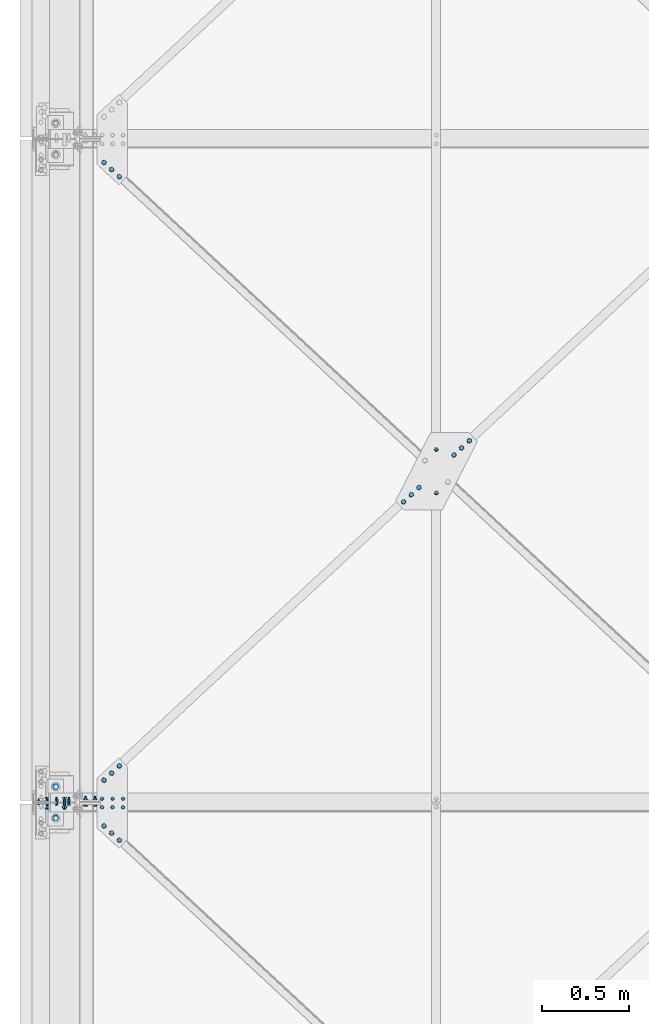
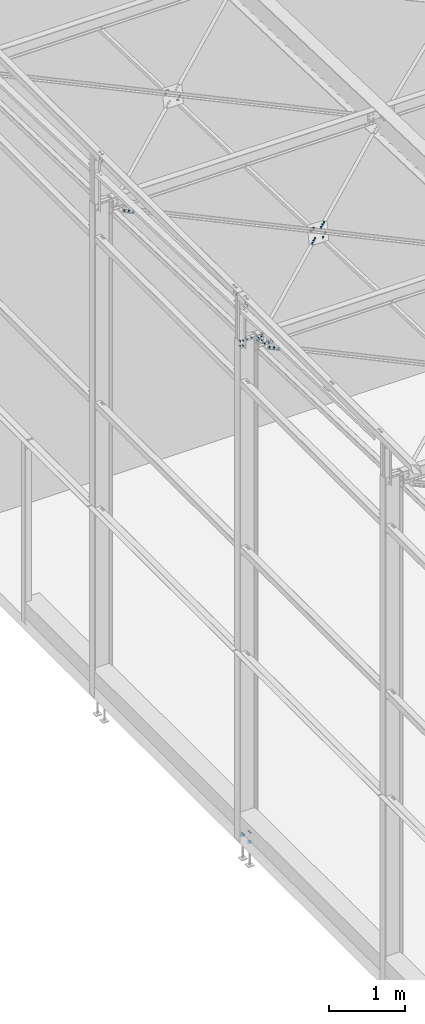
# One storey, part 149 of 362: 15 mechanical fasteners.
"""IFC2X3 building model written with IfcOpenShell, lengths in millimetres."""

from ifc_helpers import new_model, si_unit, frame, frame_2d, origin_with_axes, origin_2d_with_axis, place, context, subcontext, project, spatial, polyline, circle_curve, parameter, trimmed, segment, composite_curve, circle, outline, extrude, source, transform, mapped, material, type_object, element, save


model = new_model("IFC2X3")

# Units and contexts
model_context = context("Model", 3, precision=1e-05, world=origin_with_axes())
body_context = subcontext(model_context, "Body", "Model", "MODEL_VIEW")
ifc_project = project(units=[si_unit("LENGTHUNIT", "METRE", prefix="MILLI"), si_unit("AREAUNIT", "SQUARE_METRE"), si_unit("VOLUMEUNIT", "CUBIC_METRE"), si_unit("MASSUNIT", "GRAM", prefix="KILO"), si_unit("TIMEUNIT", "SECOND"), si_unit("PLANEANGLEUNIT", "RADIAN"), si_unit("SOLIDANGLEUNIT", "STERADIAN"), si_unit("THERMODYNAMICTEMPERATUREUNIT", "DEGREE_CELSIUS"), si_unit("LUMINOUSINTENSITYUNIT", "LUMEN")], contexts=[model_context])

# Site, building, storey
site_placement = place(None, origin_with_axes())
site = spatial("IfcSite", under=ifc_project, at=site_placement, Name="Undefined", CompositionType="ELEMENT")
building_placement = place(site_placement, origin_with_axes())
building = spatial("IfcBuilding", under=site, at=building_placement, Name="Undefined", CompositionType="ELEMENT")
storey_placement = place(building_placement, origin_with_axes())
storey = spatial("IfcBuildingStorey", under=building, at=storey_placement, Name="Undefined", CompositionType="ELEMENT", Elevation=0.0)

# Mechanical fasteners
ifc_material_1 = material(Name="8.8-SB-ZINGUE")
mechanical_fastener_type = type_object("IfcMechanicalFastenerType", Name="Bolt assembly")
shared_shape_1 = source(origin_with_axes(), body_context, "Body", "SweptSolid", [
    extrude(circle(Radius=7.0, at=origin_2d_with_axis()), frame((0.0, -8.39654616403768, 0.0), z_axis=(0.0, 1.0, 0.0), x_axis=(1.0, 0.0, 0.0)), (0.0, 0.0, 1.0), 8.5),
    extrude(circle(Radius=7.0, at=origin_2d_with_axis()), frame((0.0, -0.100011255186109, 0.0), z_axis=(0.0, 1.0, 0.0), x_axis=(1.0, 0.0, 0.0)), (0.0, 0.0, 1.0), 6.1),
    extrude(outline(polyline([(10.39230484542, 0.0), (5.19615242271, 9.00000000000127), (-5.19615242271, 9.00000000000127), (-10.39230484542, 0.0), (-5.19615242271, -9.00000000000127), (5.19615242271, -9.00000000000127), (10.39230484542, 0.0)])), frame((0.0, -16.4165461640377, 0.0), z_axis=(0.0, 1.0, 0.0), x_axis=(1.0, 0.0, 0.0)), (0.0, 0.0, 1.0), 7.92),
    extrude(circle(Radius=6.0, at=origin_2d_with_axis()), frame((0.0, -8.49654616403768, 0.0), z_axis=(0.0, 1.0, 0.0), x_axis=(1.0, 0.0, 0.0)), (0.0, 0.0, 1.0), 30.0),
    extrude(outline(polyline([(11.5008173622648, 0.0), (5.7504086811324, 9.96000000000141), (-5.7504086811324, 9.96000000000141), (-11.5008173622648, 0.0), (-5.7504086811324, -9.96000000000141), (5.7504086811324, -9.96000000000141), (11.5008173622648, 0.0)])), frame((0.0, 6.0, 0.0), z_axis=(0.0, 1.0, 0.0), x_axis=(1.0, 0.0, 0.0)), (0.0, 0.0, 1.0), 7.92),
])
mechanical_fastener_1_placement = place(storey_placement, frame((220.000001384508, 7596.86006538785, 7611.16372859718), z_axis=(-1.37967020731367e-06, 0.99950654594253, -0.0314112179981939), x_axis=(0.999999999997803, 2.09200000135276e-06, 1.31999999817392e-07)))
element("IfcMechanicalFastener", 1, at=mechanical_fastener_1_placement, inside=storey, type_object=mechanical_fastener_type, material=ifc_material_1, Name="Bolt assembly", NominalDiameter=12.0, NominalLength=30.0, context=body_context, shape_type="MappedRepresentation", body=[
    mapped(shared_shape_1, transform((0.0, 0.0, 25.0))),
    mapped(shared_shape_1, transform((60.00000000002, -1.00044417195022e-11, 24.9999999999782))),
    mapped(shared_shape_1, transform((120.00000000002, -1.90993887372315e-11, 24.9999999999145))),
    mapped(shared_shape_1, transform((0.0, 0.0, -25.0))),
    mapped(shared_shape_1, transform((59.9999999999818, -8.18545231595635e-12, -25.0000000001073))),
    mapped(shared_shape_1, transform((119.999999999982, -1.72803993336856e-11, -25.0000000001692))),
])
shared_shape_2 = source(origin_with_axes(), body_context, "Body", "SweptSolid", [
    extrude(circle(Radius=7.0, at=origin_2d_with_axis()), frame((0.0, -0.0999426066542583, 0.0), z_axis=(0.0, 1.0, 0.0), x_axis=(1.0, 0.0, 0.0)), (0.0, 0.0, 1.0), 5.1),
    extrude(circle(Radius=7.0, at=origin_2d_with_axis()), frame((0.0, 0.100057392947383, 0.0), z_axis=(0.0, 1.0, 0.0), x_axis=(1.0, 0.0, 0.0)), (0.0, 0.0, 1.0), 6.0),
    extrude(outline(polyline([(10.39230484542, 0.0), (5.19615242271, 9.00000000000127), (-5.19615242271, 9.00000000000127), (-10.39230484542, 0.0), (-5.19615242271, -9.00000000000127), (5.19615242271, -9.00000000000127), (10.39230484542, 0.0)])), frame((0.0, -7.91994260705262, 0.0), z_axis=(0.0, 1.0, 0.0), x_axis=(1.0, 0.0, 0.0)), (0.0, 0.0, 1.0), 7.92),
    extrude(circle(Radius=6.0, at=origin_2d_with_axis()), frame((0.0, 6.26397177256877e-05, 0.0), z_axis=(0.0, 1.0, 0.0), x_axis=(1.0, 0.0, 0.0)), (0.0, 0.0, 1.0), 30.0),
    extrude(outline(polyline([(11.5008173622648, 0.0), (5.7504086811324, 9.96000000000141), (-5.7504086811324, 9.96000000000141), (-11.5008173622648, 0.0), (-5.7504086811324, -9.96000000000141), (5.7504086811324, -9.96000000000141), (11.5008173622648, 0.0)])), frame((0.0, 6.00005739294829, 0.0), z_axis=(0.0, 1.0, 0.0), x_axis=(1.0, 0.0, 0.0)), (0.0, 0.0, 1.0), 7.92),
])
mechanical_fastener_2_placement = place(storey_placement, frame((2135.00007400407, 9496.85918641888, 7551.45297747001), z_axis=(0.0, -0.999506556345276, 0.031410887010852), x_axis=(-1.0, 0.0, 0.0)))
element("IfcMechanicalFastener", 2, at=mechanical_fastener_2_placement, inside=storey, type_object=mechanical_fastener_type, material=ifc_material_1, Name="Bolt assembly", NominalDiameter=12.0, NominalLength=30.0, context=body_context, shape_type="MappedRepresentation", body=[
    mapped(shared_shape_2, transform((0.0, -1.17324816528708e-10, -124.999999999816))),
    mapped(shared_shape_2, transform((0.0, 1.17324816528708e-10, 124.999999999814))),
])
shared_shape_3 = source(origin_with_axes(), body_context, "Body", "SweptSolid", [
    extrude(circle(Radius=9.0, at=origin_2d_with_axis()), frame((0.0, 5.90435274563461, 0.0), z_axis=(0.0, 1.0, 0.0), x_axis=(1.0, 0.0, 0.0)), (0.0, 0.0, 1.0), 5.1),
    extrude(circle(Radius=9.0, at=origin_2d_with_axis()), frame((0.0, 0.1, 0.0), z_axis=(0.0, 1.0, 0.0), x_axis=(1.0, 0.0, 0.0)), (0.0, 0.0, 1.0), 6.0),
    extrude(outline(polyline([(13.85640646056, 0.0), (6.92820323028, 12.0000000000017), (-6.92820323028, 12.0000000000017), (-13.85640646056, 0.0), (-6.92820323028, -12.0000000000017), (6.92820323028, -12.0000000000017), (13.85640646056, 0.0)])), frame((0.0, -10.5600019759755, 0.0), z_axis=(0.0, 1.0, 0.0), x_axis=(1.0, 0.0, 0.0)), (0.0, 0.0, 1.0), 10.56),
    extrude(circle(Radius=8.0, at=origin_2d_with_axis()), frame((0.0, 0.0, 0.0), z_axis=(0.0, 1.0, 0.0), x_axis=(1.0, 0.0, 0.0)), (0.0, 0.0, 1.0), 30.0),
    extrude(outline(polyline([(15.3344231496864, 0.0), (7.6672115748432, 13.2800000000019), (-7.6672115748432, 13.2800000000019), (-15.3344231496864, 0.0), (-7.6672115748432, -13.2800000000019), (7.6672115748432, -13.2800000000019), (15.3344231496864, 0.0)])), frame((0.0, 11.0043527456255, 0.0), z_axis=(0.0, 1.0, 0.0), x_axis=(1.0, 0.0, 0.0)), (0.0, 0.0, 1.0), 10.56),
])
mechanical_fastener_3_placement = place(storey_placement, frame((2235.26634015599, 9590.0161718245, 7548.52535846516), z_axis=(-0.680837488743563, 0.73207308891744, -0.0230066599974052), x_axis=(0.732434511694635, 0.680501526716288, -0.0213859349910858)))
element("IfcMechanicalFastener", 3, at=mechanical_fastener_3_placement, inside=storey, type_object=mechanical_fastener_type, material=ifc_material_1, Name="Bolt assembly", NominalDiameter=16.0, NominalLength=30.0, context=body_context, shape_type="MappedRepresentation", body=[
    mapped(shared_shape_3, transform((0.0, 0.0, 0.0))),
    mapped(shared_shape_3, transform((60.0, 0.0, 0.0))),
    mapped(shared_shape_3, transform((120.0, 0.0, 0.0))),
])
shared_shape_4 = source(origin_with_axes(), body_context, "Body", "SweptSolid", [
    extrude(circle(Radius=9.0, at=origin_2d_with_axis()), frame((0.0, 5.90424749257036, 0.0), z_axis=(0.0, 1.0, 0.0), x_axis=(1.0, 0.0, 0.0)), (0.0, 0.0, 1.0), 5.1),
    extrude(circle(Radius=9.0, at=origin_2d_with_axis()), frame((0.0, 0.1, 0.0), z_axis=(0.0, 1.0, 0.0), x_axis=(1.0, 0.0, 0.0)), (0.0, 0.0, 1.0), 6.0),
    extrude(outline(polyline([(13.85640646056, 0.0), (6.92820323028, 12.0000000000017), (-6.92820323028, 12.0000000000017), (-13.85640646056, 0.0), (-6.92820323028, -12.0000000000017), (6.92820323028, -12.0000000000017), (13.85640646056, 0.0)])), frame((0.0, -10.5600019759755, 0.0), z_axis=(0.0, 1.0, 0.0), x_axis=(1.0, 0.0, 0.0)), (0.0, 0.0, 1.0), 10.56),
    extrude(circle(Radius=8.0, at=origin_2d_with_axis()), frame((0.0, 0.0, 0.0), z_axis=(0.0, 1.0, 0.0), x_axis=(1.0, 0.0, 0.0)), (0.0, 0.0, 1.0), 30.0),
    extrude(outline(polyline([(15.3344231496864, 0.0), (7.6672115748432, 13.2800000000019), (-7.6672115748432, 13.2800000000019), (-15.3344231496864, 0.0), (-7.6672115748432, -13.2800000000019), (7.6672115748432, -13.2800000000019), (15.3344231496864, 0.0)])), frame((0.0, 11.0042474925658, 0.0), z_axis=(0.0, 1.0, 0.0), x_axis=(1.0, 0.0, 0.0)), (0.0, 0.0, 1.0), 10.56),
])
mechanical_fastener_4_placement = place(storey_placement, frame((2034.73366298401, 9403.70217836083, 7554.38059722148), z_axis=(0.680837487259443, -0.732073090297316, 0.0230066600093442), x_axis=(-0.732434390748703, -0.68050165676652, 0.0213859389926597)))
element("IfcMechanicalFastener", 4, at=mechanical_fastener_4_placement, inside=storey, type_object=mechanical_fastener_type, material=ifc_material_1, Name="Bolt assembly", NominalDiameter=16.0, NominalLength=30.0, context=body_context, shape_type="MappedRepresentation", body=[
    mapped(shared_shape_4, transform((0.0, 0.0, 0.0))),
    mapped(shared_shape_4, transform((60.0, 0.0, 0.0))),
    mapped(shared_shape_4, transform((120.0, 0.0, 0.0))),
])
shared_shape_5 = source(origin_with_axes(), body_context, "Body", "SweptSolid", [
    extrude(circle(Radius=9.0, at=origin_2d_with_axis()), frame((0.0, -7.9, 0.0), z_axis=(0.0, 1.0, 0.0), x_axis=(1.0, 0.0, 0.0)), (0.0, 0.0, 1.0), 5.0),
    extrude(circle(Radius=9.0, at=origin_2d_with_axis()), frame((0.0, -3.10345380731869, 0.0), z_axis=(0.0, 1.0, 0.0), x_axis=(1.0, 0.0, 0.0)), (0.0, 0.0, 1.0), 6.1),
    extrude(outline(polyline([(13.85640646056, 0.0), (6.92820323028, 12.0000000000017), (-6.92820323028, 12.0000000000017), (-13.85640646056, 0.0), (-6.92820323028, -12.0000000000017), (6.92820323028, -12.0000000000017), (13.85640646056, 0.0)])), frame((0.0, -18.5600278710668, 0.0), z_axis=(0.0, 1.0, 0.0), x_axis=(1.0, 0.0, 0.0)), (0.0, 0.0, 1.0), 10.56),
    extrude(circle(Radius=8.0, at=origin_2d_with_axis()), frame((0.0, -8.0, 0.0), z_axis=(0.0, 1.0, 0.0), x_axis=(1.0, 0.0, 0.0)), (0.0, 0.0, 1.0), 30.0),
    extrude(outline(polyline([(15.3344231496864, 0.0), (7.6672115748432, 13.2800000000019), (-7.6672115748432, 13.2800000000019), (-15.3344231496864, 0.0), (-7.6672115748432, -13.2800000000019), (7.6672115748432, -13.2800000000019), (15.3344231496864, 0.0)])), frame((0.0, 2.99654619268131, 0.0), z_axis=(0.0, 1.0, 0.0), x_axis=(1.0, 0.0, 0.0)), (0.0, 0.0, 1.0), 10.56),
])
mechanical_fastener_5_placement = place(storey_placement, frame((230.961832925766, 11265.79672214, 7492.85612623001), z_axis=(0.680838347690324, 0.732072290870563, -0.0230066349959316), x_axis=(0.73243371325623, -0.680502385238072, 0.0213859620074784)))
element("IfcMechanicalFastener", 5, at=mechanical_fastener_5_placement, inside=storey, type_object=mechanical_fastener_type, material=ifc_material_1, Name="Bolt assembly", NominalDiameter=16.0, NominalLength=30.0, context=body_context, shape_type="MappedRepresentation", body=[
    mapped(shared_shape_5, transform((0.0, 0.0, 0.0))),
    mapped(shared_shape_5, transform((60.0, 0.0, 0.0))),
    mapped(shared_shape_5, transform((120.0, 0.0, 0.0))),
])
shared_shape_6 = source(origin_with_axes(), body_context, "Body", "SweptSolid", [
    extrude(circle(Radius=9.0, at=origin_2d_with_axis()), frame((0.0, 2.89983954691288, 0.0), z_axis=(0.0, 1.0, 0.0), x_axis=(1.0, 0.0, 0.0)), (0.0, 0.0, 1.0), 5.1),
    extrude(circle(Radius=9.0, at=origin_2d_with_axis()), frame((0.0, -2.90345384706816, 0.0), z_axis=(0.0, 1.0, 0.0), x_axis=(1.0, 0.0, 0.0)), (0.0, 0.0, 1.0), 6.0),
    extrude(outline(polyline([(13.85640646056, 0.0), (6.92820323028, 12.0000000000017), (-6.92820323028, 12.0000000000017), (-13.85640646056, 0.0), (-6.92820323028, -12.0000000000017), (6.92820323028, -12.0000000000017), (13.85640646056, 0.0)])), frame((0.0, -13.5634538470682, 0.0), z_axis=(0.0, 1.0, 0.0), x_axis=(1.0, 0.0, 0.0)), (0.0, 0.0, 1.0), 10.56),
    extrude(circle(Radius=8.0, at=origin_2d_with_axis()), frame((0.0, -3.00345384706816, 0.0), z_axis=(0.0, 1.0, 0.0), x_axis=(1.0, 0.0, 0.0)), (0.0, 0.0, 1.0), 30.0),
    extrude(outline(polyline([(15.3344231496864, 0.0), (7.6672115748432, 13.2800000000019), (-7.6672115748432, 13.2800000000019), (-15.3344231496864, 0.0), (-7.6672115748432, -13.2800000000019), (7.6672115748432, -13.2800000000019), (15.3344231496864, 0.0)])), frame((0.0, 7.99983954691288, 0.0), z_axis=(0.0, 1.0, 0.0), x_axis=(1.0, 0.0, 0.0)), (0.0, 0.0, 1.0), 10.56),
])
mechanical_fastener_6_placement = place(storey_placement, frame((230.964439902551, 7727.73743885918, 7604.04574473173), z_axis=(-0.680837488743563, 0.73207308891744, -0.0230066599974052), x_axis=(0.732434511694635, 0.680501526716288, -0.0213859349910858)))
element("IfcMechanicalFastener", 6, at=mechanical_fastener_6_placement, inside=storey, type_object=mechanical_fastener_type, material=ifc_material_1, Name="Bolt assembly", NominalDiameter=16.0, NominalLength=30.0, context=body_context, shape_type="MappedRepresentation", body=[
    mapped(shared_shape_6, transform((0.0, 0.0, 0.0))),
    mapped(shared_shape_6, transform((60.0, 0.0, 0.0))),
    mapped(shared_shape_6, transform((120.0, 0.0, 0.0))),
])
shared_shape_7 = source(origin_with_axes(), body_context, "Body", "SweptSolid", [
    extrude(circle(Radius=9.0, at=origin_2d_with_axis()), frame((0.0, -7.9018518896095, 0.0), z_axis=(0.0, 1.0, 0.0), x_axis=(1.0, 0.0, 0.0)), (0.0, 0.0, 1.0), 5.0),
    extrude(circle(Radius=9.0, at=origin_2d_with_axis()), frame((0.0, -3.10345380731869, 0.0), z_axis=(0.0, 1.0, 0.0), x_axis=(1.0, 0.0, 0.0)), (0.0, 0.0, 1.0), 6.1),
    extrude(outline(polyline([(13.85640646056, 0.0), (6.92820323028, 12.0000000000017), (-6.92820323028, 12.0000000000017), (-13.85640646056, 0.0), (-6.92820323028, -12.0000000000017), (6.92820323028, -12.0000000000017), (13.85640646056, 0.0)])), frame((0.0, -18.5618518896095, 0.0), z_axis=(0.0, 1.0, 0.0), x_axis=(1.0, 0.0, 0.0)), (0.0, 0.0, 1.0), 10.56),
    extrude(circle(Radius=8.0, at=origin_2d_with_axis()), frame((0.0, -8.0018518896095, 0.0), z_axis=(0.0, 1.0, 0.0), x_axis=(1.0, 0.0, 0.0)), (0.0, 0.0, 1.0), 30.0),
    extrude(outline(polyline([(15.3344231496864, 0.0), (7.6672115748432, 13.2800000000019), (-7.6672115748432, 13.2800000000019), (-15.3344231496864, 0.0), (-7.6672115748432, -13.2800000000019), (7.6672115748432, -13.2800000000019), (15.3344231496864, 0.0)])), frame((0.0, 2.99654619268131, 0.0), z_axis=(0.0, 1.0, 0.0), x_axis=(1.0, 0.0, 0.0)), (0.0, 0.0, 1.0), 10.56),
])
mechanical_fastener_7_placement = place(storey_placement, frame((230.964265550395, 7465.79882389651, 7612.27761772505), z_axis=(0.680838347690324, 0.732072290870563, -0.0230066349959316), x_axis=(0.73243371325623, -0.680502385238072, 0.0213859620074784)))
element("IfcMechanicalFastener", 7, at=mechanical_fastener_7_placement, inside=storey, type_object=mechanical_fastener_type, material=ifc_material_1, Name="Bolt assembly", NominalDiameter=16.0, NominalLength=30.0, context=body_context, shape_type="MappedRepresentation", body=[
    mapped(shared_shape_7, transform((0.0, 0.0, 0.0))),
    mapped(shared_shape_7, transform((60.0, 0.0, 0.0))),
    mapped(shared_shape_7, transform((120.0, 0.0, 0.0))),
])
shared_shape_8 = source(origin_with_axes(), body_context, "Body", "SweptSolid", [
    extrude(circle(Radius=7.0, at=origin_2d_with_axis()), frame((0.0, -3.29999884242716, 0.0), z_axis=(0.0, 1.0, 0.0), x_axis=(1.0, 0.0, 0.0)), (0.0, 0.0, 1.0), 6.6),
    extrude(circle(Radius=7.0, at=origin_2d_with_axis()), frame((0.0, 3.40000111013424, 0.0), z_axis=(0.0, 1.0, 0.0), x_axis=(1.0, 0.0, 0.0)), (0.0, 0.0, 1.0), 5.1),
    extrude(circle(Radius=7.0, at=origin_2d_with_axis()), frame((0.0, -8.40001950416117, 0.0), z_axis=(0.0, 1.0, 0.0), x_axis=(1.0, 0.0, 0.0)), (0.0, 0.0, 1.0), 5.0),
    extrude(outline(polyline([(10.39230484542, 0.0), (5.19615242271, 9.00000000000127), (-5.19615242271, 9.00000000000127), (-10.39230484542, 0.0), (-5.19615242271, -9.00000000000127), (5.19615242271, -9.00000000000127), (10.39230484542, 0.0)])), frame((0.0, -16.4200195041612, 0.0), z_axis=(0.0, 1.0, 0.0), x_axis=(1.0, 0.0, 0.0)), (0.0, 0.0, 1.0), 7.92),
    extrude(circle(Radius=6.0, at=origin_2d_with_axis()), frame((0.0, -8.5, 0.0), z_axis=(0.0, 1.0, 0.0), x_axis=(1.0, 0.0, 0.0)), (0.0, 0.0, 1.0), 40.0),
    extrude(outline(polyline([(11.5008173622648, 0.0), (5.7504086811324, 9.96000000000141), (-5.7504086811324, 9.96000000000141), (-11.5008173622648, 0.0), (-5.7504086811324, -9.96000000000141), (5.7504086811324, -9.96000000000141), (11.5008173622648, 0.0)])), frame((0.0, 8.49999994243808, 0.0), z_axis=(0.0, 1.0, 0.0), x_axis=(1.0, 0.0, 0.0)), (0.0, 0.0, 1.0), 7.92),
])
mechanical_fastener_8_placement = place(storey_placement, frame((-5.0, 7599.99999888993, 7771.04947686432), z_axis=(-1.0, 0.0, 0.0), x_axis=(0.0, 0.0, 1.0)))
element("IfcMechanicalFastener", 8, at=mechanical_fastener_8_placement, inside=storey, type_object=mechanical_fastener_type, material=ifc_material_1, Name="Bolt assembly", NominalDiameter=12.0, NominalLength=40.0, context=body_context, shape_type="MappedRepresentation", body=[
    mapped(shared_shape_8, transform((0.0, 0.0, -35.0))),
    mapped(shared_shape_8, transform((0.0, 0.0, 35.0))),
])
shared_shape_9 = source(origin_with_axes(), body_context, "Body", "SweptSolid", [
    extrude(circle(Radius=7.0, at=origin_2d_with_axis()), frame((0.0, -3.89999843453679, 0.0), z_axis=(0.0, 1.0, 0.0), x_axis=(1.0, 0.0, 0.0)), (0.0, 0.0, 1.0), 4.0),
    extrude(outline(composite_curve([segment(polyline([(-7.0, 7.0), (7.0, 7.0)]), True, "CONTINUOUS"), segment(trimmed(circle_curve(frame_2d((7.0, 0.0), x_axis=(0.0, 1.0)), 7.0), [parameter(0.0)], [parameter(3.14159265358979)], False, "PARAMETER"), True, "CONTINUOUS"), segment(polyline([(7.0, -7.0), (-7.0, -7.0)]), True, "CONTINUOUS"), segment(trimmed(circle_curve(frame_2d((-7.0, 0.0), x_axis=(0.0, -1.0)), 7.0), [parameter(0.0)], [parameter(3.14159265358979)], False, "PARAMETER"), True, "DISCONTINUOUS")], self_intersect=False)), frame((0.0, -0.100011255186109, 0.0), z_axis=(0.0, 1.0, 0.0), x_axis=(1.0, 0.0, 0.0)), (0.0, 0.0, 1.0), 10.1),
    extrude(outline(polyline([(10.39230484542, 0.0), (5.19615242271, 9.00000000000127), (-5.19615242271, 9.00000000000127), (-10.39230484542, 0.0), (-5.19615242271, -9.00000000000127), (5.19615242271, -9.00000000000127), (10.39230484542, 0.0)])), frame((0.0, -11.9199984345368, 0.0), z_axis=(0.0, 1.0, 0.0), x_axis=(1.0, 0.0, 0.0)), (0.0, 0.0, 1.0), 7.92),
    extrude(circle(Radius=6.0, at=origin_2d_with_axis()), frame((0.0, -3.99999923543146, 0.0), z_axis=(0.0, 1.0, 0.0), x_axis=(1.0, 0.0, 0.0)), (0.0, 0.0, 1.0), 40.0),
    extrude(circle(Radius=10.8, at=origin_2d_with_axis()), frame((0.0, 10.0000000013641, 0.0), z_axis=(0.0, 1.0, 0.0), x_axis=(1.0, 0.0, 0.0)), (0.0, 0.0, 1.0), 3.96),
    extrude(outline(polyline([(11.5008173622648, 0.0), (5.7504086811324, 9.96000000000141), (-5.7504086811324, 9.96000000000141), (-11.5008173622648, 0.0), (-5.7504086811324, -9.96000000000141), (5.7504086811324, -9.96000000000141), (11.5008173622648, 0.0)])), frame((0.0, 13.96, 0.0), z_axis=(0.0, 1.0, 0.0), x_axis=(1.0, 0.0, 0.0)), (0.0, 0.0, 1.0), 7.92),
])
mechanical_fastener_9_placement = place(storey_placement, frame((-129.999999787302, 11222.0, 8450.0), z_axis=(-1.0, 0.0, 0.0), x_axis=(0.0, 1.0, 0.0)))
element("IfcMechanicalFastener", 9, at=mechanical_fastener_9_placement, inside=storey, type_object=mechanical_fastener_type, material=ifc_material_1, Name="Bolt assembly", NominalDiameter=12.0, NominalLength=40.0, context=body_context, shape_type="MappedRepresentation", body=[
    mapped(shared_shape_9, transform((0.0, 0.0, 0.0))),
    mapped(shared_shape_9, transform((60.0, 0.0, 0.0))),
])
shared_shape_10 = source(origin_with_axes(), body_context, "Body", "SweptSolid", [
    extrude(circle(Radius=7.0, at=origin_2d_with_axis()), frame((0.0, -3.89999843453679, 0.0), z_axis=(0.0, 1.0, 0.0), x_axis=(1.0, 0.0, 0.0)), (0.0, 0.0, 1.0), 4.0),
    extrude(outline(composite_curve([segment(polyline([(-7.0, 7.0), (7.0, 7.0)]), True, "CONTINUOUS"), segment(trimmed(circle_curve(frame_2d((7.0, 0.0), x_axis=(0.0, 1.0)), 7.0), [parameter(0.0)], [parameter(3.14159265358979)], False, "PARAMETER"), True, "CONTINUOUS"), segment(polyline([(7.0, -7.0), (-7.0, -7.0)]), True, "CONTINUOUS"), segment(trimmed(circle_curve(frame_2d((-7.0, 0.0), x_axis=(0.0, -1.0)), 7.0), [parameter(0.0)], [parameter(3.14159265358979)], False, "PARAMETER"), True, "DISCONTINUOUS")], self_intersect=False)), frame((0.0, -0.100011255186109, 0.0), z_axis=(0.0, 1.0, 0.0), x_axis=(1.0, 0.0, 0.0)), (0.0, 0.0, 1.0), 10.1),
    extrude(outline(polyline([(10.39230484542, 0.0), (5.19615242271, 9.00000000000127), (-5.19615242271, 9.00000000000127), (-10.39230484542, 0.0), (-5.19615242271, -9.00000000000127), (5.19615242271, -9.00000000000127), (10.39230484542, 0.0)])), frame((0.0, -11.9199984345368, 0.0), z_axis=(0.0, 1.0, 0.0), x_axis=(1.0, 0.0, 0.0)), (0.0, 0.0, 1.0), 7.92),
    extrude(circle(Radius=6.0, at=origin_2d_with_axis()), frame((0.0, -3.99999923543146, 0.0), z_axis=(0.0, 1.0, 0.0), x_axis=(1.0, 0.0, 0.0)), (0.0, 0.0, 1.0), 40.0),
    extrude(circle(Radius=10.8, at=origin_2d_with_axis()), frame((0.0, 10.0000000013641, 0.0), z_axis=(0.0, 1.0, 0.0), x_axis=(1.0, 0.0, 0.0)), (0.0, 0.0, 1.0), 3.96),
    extrude(outline(polyline([(11.5008173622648, 0.0), (5.7504086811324, 9.96000000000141), (-5.7504086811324, 9.96000000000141), (-11.5008173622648, 0.0), (-5.7504086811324, -9.96000000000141), (5.7504086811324, -9.96000000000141), (11.5008173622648, 0.0)])), frame((0.0, 13.96, 0.0), z_axis=(0.0, 1.0, 0.0), x_axis=(1.0, 0.0, 0.0)), (0.0, 0.0, 1.0), 7.92),
])
mechanical_fastener_10_placement = place(storey_placement, frame((-129.999999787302, 7778.0, 8450.0), z_axis=(1.0, 0.0, 0.0), x_axis=(0.0, -1.0, 0.0)))
element("IfcMechanicalFastener", 10, at=mechanical_fastener_10_placement, inside=storey, type_object=mechanical_fastener_type, material=ifc_material_1, Name="Bolt assembly", NominalDiameter=12.0, NominalLength=40.0, context=body_context, shape_type="MappedRepresentation", body=[
    mapped(shared_shape_10, transform((0.0, 0.0, 0.0))),
    mapped(shared_shape_10, transform((60.0, 0.0, 0.0))),
])
shared_shape_11 = source(origin_with_axes(), body_context, "Body", "SweptSolid", [
    extrude(circle(Radius=7.0, at=origin_2d_with_axis()), frame((0.0, -3.89999843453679, 0.0), z_axis=(0.0, 1.0, 0.0), x_axis=(1.0, 0.0, 0.0)), (0.0, 0.0, 1.0), 4.0),
    extrude(outline(composite_curve([segment(polyline([(-7.0, 7.0), (7.0, 7.0)]), True, "CONTINUOUS"), segment(trimmed(circle_curve(frame_2d((7.0, 0.0), x_axis=(0.0, 1.0)), 7.0), [parameter(0.0)], [parameter(3.14159265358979)], False, "PARAMETER"), True, "CONTINUOUS"), segment(polyline([(7.0, -7.0), (-7.0, -7.0)]), True, "CONTINUOUS"), segment(trimmed(circle_curve(frame_2d((-7.0, 0.0), x_axis=(0.0, -1.0)), 7.0), [parameter(0.0)], [parameter(3.14159265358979)], False, "PARAMETER"), True, "DISCONTINUOUS")], self_intersect=False)), frame((0.0, -0.100011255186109, 0.0), z_axis=(0.0, 1.0, 0.0), x_axis=(1.0, 0.0, 0.0)), (0.0, 0.0, 1.0), 10.1),
    extrude(outline(polyline([(10.39230484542, 0.0), (5.19615242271, 9.00000000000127), (-5.19615242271, 9.00000000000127), (-10.39230484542, 0.0), (-5.19615242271, -9.00000000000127), (5.19615242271, -9.00000000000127), (10.39230484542, 0.0)])), frame((0.0, -11.9199984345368, 0.0), z_axis=(0.0, 1.0, 0.0), x_axis=(1.0, 0.0, 0.0)), (0.0, 0.0, 1.0), 7.92),
    extrude(circle(Radius=6.0, at=origin_2d_with_axis()), frame((0.0, -3.99999923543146, 0.0), z_axis=(0.0, 1.0, 0.0), x_axis=(1.0, 0.0, 0.0)), (0.0, 0.0, 1.0), 40.0),
    extrude(circle(Radius=10.8, at=origin_2d_with_axis()), frame((0.0, 10.0000000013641, 0.0), z_axis=(0.0, 1.0, 0.0), x_axis=(1.0, 0.0, 0.0)), (0.0, 0.0, 1.0), 3.96),
    extrude(outline(polyline([(11.5008173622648, 0.0), (5.7504086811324, 9.96000000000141), (-5.7504086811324, 9.96000000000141), (-11.5008173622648, 0.0), (-5.7504086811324, -9.96000000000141), (5.7504086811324, -9.96000000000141), (11.5008173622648, 0.0)])), frame((0.0, 13.96, 0.0), z_axis=(0.0, 1.0, 0.0), x_axis=(1.0, 0.0, 0.0)), (0.0, 0.0, 1.0), 7.92),
])
mechanical_fastener_11_placement = place(storey_placement, frame((-129.999999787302, 7422.0, 8450.0), z_axis=(-1.0, 0.0, 0.0), x_axis=(0.0, 1.0, 0.0)))
element("IfcMechanicalFastener", 11, at=mechanical_fastener_11_placement, inside=storey, type_object=mechanical_fastener_type, material=ifc_material_1, Name="Bolt assembly", NominalDiameter=12.0, NominalLength=40.0, context=body_context, shape_type="MappedRepresentation", body=[
    mapped(shared_shape_11, transform((0.0, 0.0, 0.0))),
    mapped(shared_shape_11, transform((60.0, 0.0, 0.0))),
])
shared_shape_12 = source(origin_with_axes(), body_context, "Body", "SweptSolid", [
    extrude(circle(Radius=7.0, at=origin_2d_with_axis()), frame((0.0, -2.80035671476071, 0.0), z_axis=(0.0, 1.0, 0.0), x_axis=(1.0, 0.0, 0.0)), (0.0, 0.0, 1.0), 5.6),
    extrude(circle(Radius=7.0, at=origin_2d_with_axis()), frame((0.0, -12.9003023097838, 0.0), z_axis=(0.0, 1.0, 0.0), x_axis=(1.0, 0.0, 0.0)), (0.0, 0.0, 1.0), 10.0),
    extrude(circle(Radius=7.0, at=origin_2d_with_axis()), frame((0.0, 2.90055997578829, 0.0), z_axis=(0.0, 1.0, 0.0), x_axis=(1.0, 0.0, 0.0)), (0.0, 0.0, 1.0), 10.1),
    extrude(outline(polyline([(10.39230484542, 0.0), (5.19615242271, 9.00000000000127), (-5.19615242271, 9.00000000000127), (-10.39230484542, 0.0), (-5.19615242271, -9.00000000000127), (5.19615242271, -9.00000000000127), (10.39230484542, 0.0)])), frame((0.0, -20.9203023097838, 0.0), z_axis=(0.0, 1.0, 0.0), x_axis=(1.0, 0.0, 0.0)), (0.0, 0.0, 1.0), 7.92),
    extrude(circle(Radius=6.0, at=origin_2d_with_axis()), frame((0.0, -13.0003023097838, 0.0), z_axis=(0.0, 1.0, 0.0), x_axis=(1.0, 0.0, 0.0)), (0.0, 0.0, 1.0), 50.0),
    extrude(outline(polyline([(11.5008173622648, 0.0), (5.7504086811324, 9.96000000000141), (-5.7504086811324, 9.96000000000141), (-11.5008173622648, 0.0), (-5.7504086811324, -9.96000000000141), (5.7504086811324, -9.96000000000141), (11.5008173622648, 0.0)])), frame((0.0, 13.0005599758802, 0.0), z_axis=(0.0, 1.0, 0.0), x_axis=(1.0, 0.0, 0.0)), (0.0, 0.0, 1.0), 7.92),
])
mechanical_fastener_12_placement = place(storey_placement, frame((179.999999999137, 7600.00028846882, 7711.10921186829), z_axis=(-1.05403257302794e-09, -0.0314112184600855, -0.999506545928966), x_axis=(-0.999999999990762, -4.28499999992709e-06, 3.38999996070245e-07)))
element("IfcMechanicalFastener", 12, at=mechanical_fastener_12_placement, inside=storey, type_object=mechanical_fastener_type, material=ifc_material_1, Name="Bolt assembly", NominalDiameter=12.0, NominalLength=50.0, context=body_context, shape_type="MappedRepresentation", body=[
    mapped(shared_shape_12, transform((0.0, 0.0, -30.0))),
    mapped(shared_shape_12, transform((55.0000000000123, 3.45607986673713e-11, -30.0000000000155))),
    mapped(shared_shape_12, transform((0.0, 0.0, 30.0))),
    mapped(shared_shape_12, transform((54.9999999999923, 3.45607986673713e-11, 29.9999999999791))),
])
shared_shape_13 = source(origin_with_axes(), body_context, "Body", "SweptSolid", [
    extrude(circle(Radius=7.0, at=origin_2d_with_axis()), frame((0.0, -3.29999884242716, 0.0), z_axis=(0.0, 1.0, 0.0), x_axis=(1.0, 0.0, 0.0)), (0.0, 0.0, 1.0), 6.6),
    extrude(circle(Radius=7.0, at=origin_2d_with_axis()), frame((0.0, 3.19999995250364, 0.0), z_axis=(0.0, 1.0, 0.0), x_axis=(1.0, 0.0, 0.0)), (0.0, 0.0, 1.0), 4.1),
    extrude(circle(Radius=7.0, at=origin_2d_with_axis()), frame((0.0, -7.19999995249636, 0.0), z_axis=(0.0, 1.0, 0.0), x_axis=(1.0, 0.0, 0.0)), (0.0, 0.0, 1.0), 4.0),
    extrude(outline(polyline([(10.39230484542, 0.0), (5.19615242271, 9.00000000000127), (-5.19615242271, 9.00000000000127), (-10.39230484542, 0.0), (-5.19615242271, -9.00000000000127), (5.19615242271, -9.00000000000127), (10.39230484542, 0.0)])), frame((0.0, -15.2199999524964, 0.0), z_axis=(0.0, 1.0, 0.0), x_axis=(1.0, 0.0, 0.0)), (0.0, 0.0, 1.0), 7.92),
    extrude(circle(Radius=6.0, at=origin_2d_with_axis()), frame((0.0, -7.29999968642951, 0.0), z_axis=(0.0, 1.0, 0.0), x_axis=(1.0, 0.0, 0.0)), (0.0, 0.0, 1.0), 30.0),
    extrude(outline(polyline([(11.5008173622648, 0.0), (5.7504086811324, 9.96000000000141), (-5.7504086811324, 9.96000000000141), (-11.5008173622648, 0.0), (-5.7504086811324, -9.96000000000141), (5.7504086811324, -9.96000000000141), (11.5008173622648, 0.0)])), frame((0.0, 7.29999995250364, 0.0), z_axis=(0.0, 1.0, 0.0), x_axis=(1.0, 0.0, 0.0)), (0.0, 0.0, 1.0), 7.92),
])
mechanical_fastener_13_placement = place(storey_placement, frame((-120.000001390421, 7600.0, 7690.00041024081), z_axis=(-1.0, 0.0, 0.0), x_axis=(0.0, 0.0, 1.0)))
element("IfcMechanicalFastener", 13, at=mechanical_fastener_13_placement, inside=storey, type_object=mechanical_fastener_type, material=ifc_material_1, Name="Bolt assembly", NominalDiameter=12.0, NominalLength=30.0, context=body_context, shape_type="MappedRepresentation", body=[
    mapped(shared_shape_13, transform((1.70530256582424e-12, 0.0, -20.0))),
    mapped(shared_shape_13, transform((80.0, 0.0, -20.0))),
    mapped(shared_shape_13, transform((-1.70530256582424e-12, 0.0, 20.0))),
    mapped(shared_shape_13, transform((80.0, 0.0, 20.0))),
])
ifc_material_2 = material(Name="6.8")
shared_shape_14 = source(origin_with_axes(), body_context, "Body", "SweptSolid", [
    extrude(circle(Radius=13.0, at=origin_2d_with_axis()), frame((0.0, 0.0, 0.0), z_axis=(0.0, 1.0, 0.0), x_axis=(1.0, 0.0, 0.0)), (0.0, 0.0, 1.0), 10.1),
])
mechanical_fastener_14_placement = place(storey_placement, frame((-45.0, 7600.00000007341, -200.0), z_axis=(0.0, -1.0, 0.0), x_axis=(-1.0, 0.0, 0.0)))
element("IfcMechanicalFastener", 14, at=mechanical_fastener_14_placement, inside=storey, type_object=mechanical_fastener_type, material=ifc_material_2, Name="Bolt assembly", NominalDiameter=24.0, NominalLength=10.0, context=body_context, shape_type="MappedRepresentation", body=[
    mapped(shared_shape_14, transform((-8.00355337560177e-11, 1.57342583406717e-10, -90.000000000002))),
    mapped(shared_shape_14, transform((8.36735125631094e-11, -1.5825207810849e-10, 90.0))),
])
shared_shape_15 = source(origin_with_axes(), body_context, "Body", "SweptSolid", [
    extrude(circle(Radius=9.0, at=origin_2d_with_axis()), frame((0.0, -3.29999884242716, 0.0), z_axis=(0.0, 1.0, 0.0), x_axis=(1.0, 0.0, 0.0)), (0.0, 0.0, 1.0), 6.6),
    extrude(circle(Radius=9.0, at=origin_2d_with_axis()), frame((0.0, 4.9000000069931, 0.0), z_axis=(0.0, 1.0, 0.0), x_axis=(1.0, 0.0, 0.0)), (0.0, 0.0, 1.0), 15.1),
    extrude(circle(Radius=9.0, at=origin_2d_with_axis()), frame((0.0, -19.9, 0.0), z_axis=(0.0, 1.0, 0.0), x_axis=(1.0, 0.0, 0.0)), (0.0, 0.0, 1.0), 15.0),
    extrude(outline(polyline([(13.85640646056, 0.0), (6.92820323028, 12.0000000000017), (-6.92820323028, 12.0000000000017), (-13.85640646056, 0.0), (-6.92820323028, -12.0000000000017), (6.92820323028, -12.0000000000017), (13.85640646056, 0.0)])), frame((0.0, -30.56, 0.0), z_axis=(0.0, 1.0, 0.0), x_axis=(1.0, 0.0, 0.0)), (0.0, 0.0, 1.0), 10.56),
    extrude(circle(Radius=8.0, at=origin_2d_with_axis()), frame((0.0, -20.0, 0.0), z_axis=(0.0, 1.0, 0.0), x_axis=(1.0, 0.0, 0.0)), (0.0, 0.0, 1.0), 60.0),
    extrude(outline(polyline([(15.3344231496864, 0.0), (7.6672115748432, 13.2800000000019), (-7.6672115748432, 13.2800000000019), (-15.3344231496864, 0.0), (-7.6672115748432, -13.2800000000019), (7.6672115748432, -13.2800000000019), (15.3344231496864, 0.0)])), frame((0.0, 20.0, 0.0), z_axis=(0.0, 1.0, 0.0), x_axis=(1.0, 0.0, 0.0)), (0.0, 0.0, 1.0), 10.56),
])
mechanical_fastener_15_placement = place(storey_placement, frame((-45.0, 7600.0, -115.0), z_axis=(-1.0, 0.0, 0.0), x_axis=(0.0, 0.0, -1.0)))
element("IfcMechanicalFastener", 15, at=mechanical_fastener_15_placement, inside=storey, type_object=mechanical_fastener_type, material=ifc_material_1, Name="Bolt assembly", NominalDiameter=16.0, NominalLength=60.0, context=body_context, shape_type="MappedRepresentation", body=[
    mapped(shared_shape_15, transform((0.0, 0.0, -50.0))),
    mapped(shared_shape_15, transform((0.0, 0.0, 50.0))),
])

save(model, "model.ifc")
